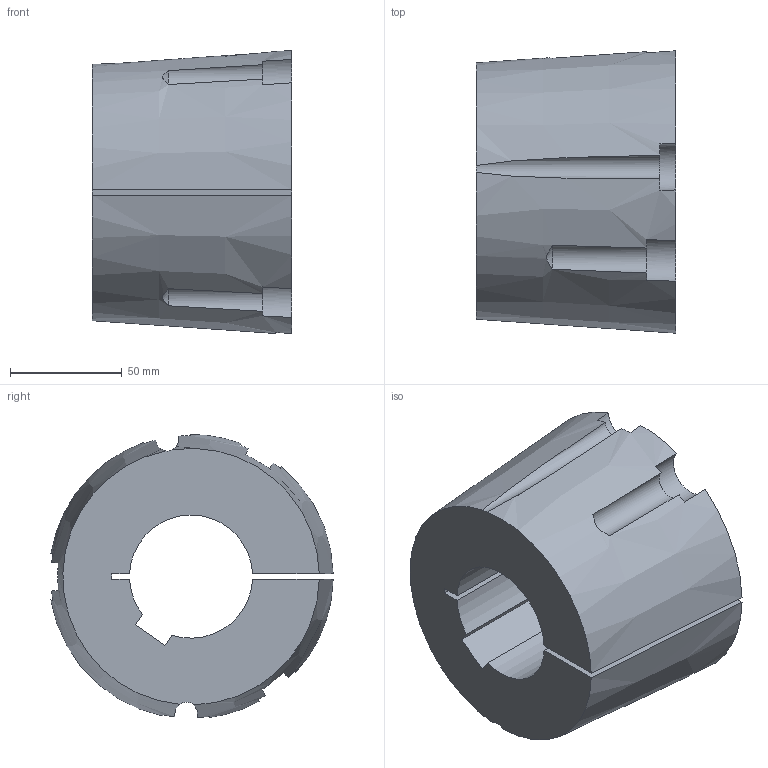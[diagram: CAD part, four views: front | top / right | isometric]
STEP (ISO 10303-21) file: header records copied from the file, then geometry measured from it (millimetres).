
FILE_DESCRIPTION( ( 'STEP AP203' ), '1' );
FILE_NAME( 'D:/export/antriebselemente/spannbuchsen_und_spannsaetze/taper-spannbuchsen_1008_bis_5050/taper-spannbuchsen_62251055Isometric_212.stp', '2018-12-11T11:11:27', ( '' ), ( '' ), ' ', 'PARTsolutions', ' ' );
FILE_SCHEMA( ( 'CONFIG_CONTROL_DESIGN' ) );
Length unit declared in the file: millimetre
Products named in the file (1): _taper-spannbuchsen_62251055
Bounding box: 89 x 126.13 x 126.46 mm (x, y, z)
Volume: 770332.2 mm3; surface area: 76601.9 mm2
Topology: 1 solids, 1 shells, 34 faces, 96 edges, 64 vertices
Faces by surface type: plane 15, cylinder 13, cone 6
Entity records: 1315 total; most frequent: CARTESIAN_POINT 391, ORIENTED_EDGE 192, DIRECTION 186, EDGE_CURVE 96, AXIS2_PLACEMENT_3D 80, VERTEX_POINT 64, CIRCLE 45, ADVANCED_FACE 34
